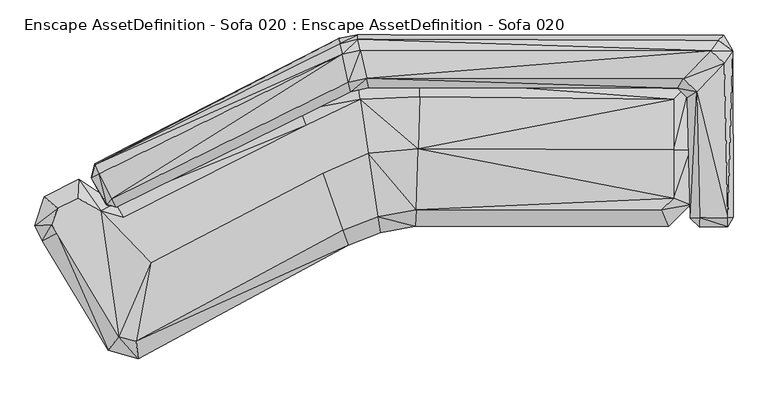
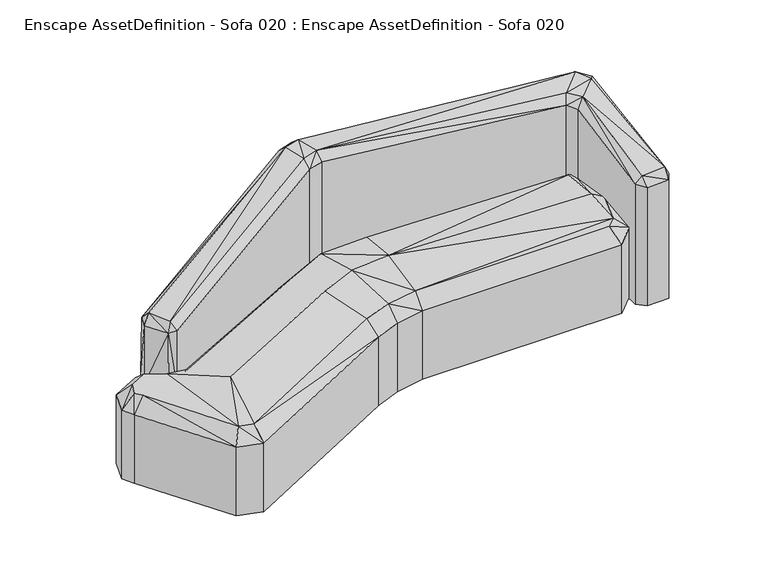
"""IFC4 building model written with IfcOpenShell, lengths in millimetres: geographic element geometry, Enscape AssetDefinition - Sofa 020 : Enscape AssetDefinition - Sofa 020."""

from ifc_helpers import new_model, si_unit, origin, place, context, project, spatial, triangles, source, transform, mapped, element, save


def enscape_assetdefinition_sofa_020_enscape_assetdefinition_e8b1b9e5(model_context):
    return source(origin(), model_context, "Body", "Tessellation", [
        triangles([(1344.632896, -23.3064444, 655.2366039), (1225.1138832, 460.2764837, 763.0779139), (1363.0729042, 618.2515795, 726.1329306), (1330.848127, 570.6717439, 756.4520102), (1236.0392338, -24.4526817, 648.4544598), (1279.4707397, 618.4629038, 776.5762905), (1328.6947701, 676.4740431, 368.1097984), (1307.8392117, 658.5411261, 736.2185795), (1345.1037975, -58.3137099, 608.2229765), (1364.8975021, -21.0019521, 614.0613556), (1363.8543972, -21.0019521, 307.0306778), (1363.0729042, 618.2515795, 363.0669376), (-76.7466509, 678.5811819, 431.3450738), (-145.9676346, 645.3103203, 856.4379856), (-76.7466509, 661.352655, 862.6891302), (-1084.6619911, 179.3186512, 607.9423977), (-148.4935433, 665.7050783, 428.2189928), (-1086.3773661, 184.2522709, 303.9706902), (-145.9676346, 640.8436598, 0.0), (-1101.3034899, 130.4824243, 0.0), (-1101.3034899, 130.4824243, 300.1452696), (-1004.8635189, 17.0181825, 0.0), (-1084.6619911, 179.317652, 0.0), (-1043.7291698, 23.4597463, 300.1452696), (-1041.9025372, 28.9614726, 600.2905392), (-1101.3034899, 130.4824243, 600.2905392), (-1069.7127583, 146.0427754, 646.3292988), (-1004.8635189, 17.0181825, 608.2019749), (-1043.7291698, 23.4597463, 0.0), (-1004.8635189, 17.0181825, 304.1009874), (-1021.6630749, 49.3832911, 644.3834873), (-112.5935453, 496.3548411, 894.7717649), (-137.1744759, 604.5347932, 892.8299503), (-34.8188958, 475.9660784, 862.0639503), (-34.8188958, 475.9660784, 431.0324839), (-104.0398705, 459.9238163, 856.0181711), (-104.0398705, 459.9238163, 428.0085769), (1151.9501078, 474.1866448, 736.7335917), (1189.2719576, 437.6593686, 723.606922), (1189.2719576, 437.6583876, 361.803461), (-34.8188958, 475.9660784, 0.0), (1151.9501078, 474.1856275, 368.3662871), (1199.9287926, -25.1650701, 615.7456278), (1199.9287926, -25.1650701, 307.8723415), (1237.2406139, -60.7975517, 304.1109796), (1237.2406139, -60.7975517, 608.2229765), (1345.1037975, -58.3137099, 304.1109796), (1199.9287926, -25.1650701, 0.0), (1189.2719576, 437.6583876, 0.0), (1363.0729042, 618.2515795, 0.0), (1345.1037975, -58.3137099, 0.0), (1363.8543972, -21.0019521, 0.0), (1237.2406139, -60.7975517, 0.0), (1151.9501078, 474.1856275, 0.0), (1328.6947701, 654.7787104, 0.0), (-76.7466509, 656.8858492, 0.0), (-104.0398705, 459.9238163, 0.0), (1173.2376892, 510.6146175, 772.3630302), (-67.7460965, 620.4728828, 896.8637884), (-42.2974773, 512.4081491, 901.1030645), (-76.4761278, 493.8750143, 0.0), (144.725205, -55.7236563, 352.6726956), (144.725205, -55.7236563, 0.0), (8.5977651, -81.8505999, 0.0), (1117.5070066, -55.7236563, 0.0), (8.5977651, -81.8505999, 352.6726956), (1199.857576, 26.6279214, 0.0), (1199.857576, 25.9816627, 363.8144211), (146.8293099, 6.6299278, 418.2214562), (1091.4342522, 6.6549762, 418.2966333), (1117.5070066, -55.7236563, 352.6726956), (-0.5280296, -20.0921784, 417.9118821), (-133.9812387, -71.4653508, 418.3397266), (-211.7779345, 146.5948493, 455.5051907), (-976.8848488, -21.1201839, 424.9195576), (154.780814, 242.2583778, 455.5051907), (-36.6925482, 224.6470254, 455.5051907), (-277.6223348, 331.1507535, 425.229168), (-1008.6539125, 32.4162059, 352.6726956), (-298.5261097, 389.7399462, 352.6726956), (-76.4761278, 493.8750143, 352.6726956), (161.5149415, 441.8135118, 425.0949102), (163.6130329, 504.0047739, 0.0), (-113.0223799, -130.210902, 0.0), (-920.3074883, -565.7200839, 0.0), (-872.4301781, -197.1464148, 0.0), (-113.0223799, -130.210902, 352.6726956), (-927.5376429, -498.6763564, 416.0011703), (-298.5261097, 389.7399462, 0.0), (-1035.4992216, -533.5814206, 0.0), (-920.3074883, -565.7200839, 352.6726956), (-872.4301781, -197.1464148, 455.5051907), (-1064.6199005, 3.6100392, 415.6174001), (-994.6003372, -479.9608927, 414.2477162), (-1035.4992216, -533.5814206, 352.6726956), (-1288.6937233, -111.7228499, 352.6726956), (-1232.727808, -82.9156784, 415.6174001), (-1253.3718967, -49.9674306, 415.6174001), (-1280.360511, 56.6214076, 352.6726956), (-1153.0674814, 50.7730001, 415.6174001), (-1228.7359005, 12.2659165, 415.6174001), (-1317.1222206, -54.4832387, 352.6726956), (-1317.1222206, -54.4832387, 0.0), (-1149.3351511, 123.2984242, 352.6726956), (-1008.6539125, 32.4162059, 0.0), (-1280.360511, 56.6214076, 0.0), (-1149.3351511, 123.2984242, 0.0), (-1288.6937233, -111.7228499, 0.0), (1199.857576, 492.9582098, 0.0), (1199.857576, 492.9582098, 352.6726956), (163.6130329, 504.0047739, 352.6726956), (1199.857576, 236.3779228, 392.5604862), (1136.9129442, 51.7108335, 416.5021571), (1136.9138889, 236.7316076, 431.4412525), (1136.9129442, 431.4101861, 411.4412742), (-67.3713692, 432.2648578, 424.7451859)], [[76, 82, 116], [115, 82, 76], [114, 115, 76], [113, 114, 76], [69, 70, 113], [69, 113, 76], [68, 113, 70], [113, 68, 112], [113, 112, 114], [114, 112, 110], [114, 110, 115], [115, 110, 111], [115, 111, 82], [109, 112, 68], [109, 110, 112], [109, 111, 110], [67, 109, 68], [109, 83, 111], [83, 109, 67], [105, 108, 106], [108, 103, 106], [105, 106, 107], [104, 107, 106], [104, 106, 99], [106, 103, 102], [106, 102, 99], [108, 102, 103], [102, 101, 99], [102, 98, 101], [99, 101, 100], [100, 101, 98], [99, 100, 104], [93, 104, 100], [97, 93, 100], [97, 100, 98], [96, 97, 98], [108, 96, 102], [96, 98, 102], [97, 96, 95], [93, 97, 94], [92, 93, 94], [97, 95, 94], [92, 94, 88], [91, 88, 94], [91, 94, 95], [91, 95, 90], [90, 95, 96], [90, 96, 108], [105, 90, 108], [105, 86, 90], [89, 86, 105], [91, 90, 85], [86, 85, 90], [87, 91, 85], [87, 88, 91], [84, 87, 85], [84, 85, 86], [89, 84, 86], [64, 87, 84], [64, 84, 89], [111, 83, 61], [61, 64, 89], [82, 111, 81], [81, 61, 89], [82, 81, 116], [111, 61, 81], [116, 81, 80], [80, 89, 105], [81, 89, 80], [93, 79, 104], [79, 105, 107], [79, 107, 104], [80, 105, 79], [92, 75, 93], [79, 93, 75], [78, 80, 79], [78, 79, 75], [116, 80, 78], [77, 116, 78], [69, 76, 77], [76, 116, 77], [74, 78, 75], [74, 75, 92], [77, 78, 74], [87, 73, 88], [73, 92, 88], [73, 74, 92], [72, 77, 74], [72, 74, 73], [69, 77, 72], [66, 72, 73], [64, 66, 87], [66, 73, 87], [62, 69, 72], [62, 72, 66], [69, 62, 71], [68, 70, 71], [69, 71, 70], [65, 67, 68], [65, 68, 71], [83, 67, 65], [63, 62, 66], [63, 65, 71], [63, 66, 64], [63, 71, 62], [63, 64, 61], [83, 63, 61], [63, 83, 65], [59, 33, 32], [59, 32, 60], [6, 59, 60], [60, 58, 6], [56, 41, 57], [54, 41, 56], [54, 56, 55], [50, 54, 55], [9, 47, 11], [53, 51, 47], [52, 51, 53], [47, 51, 52], [47, 52, 11], [52, 50, 11], [50, 49, 54], [50, 52, 49], [52, 48, 49], [52, 53, 48], [48, 53, 45], [45, 47, 9], [45, 53, 47], [5, 46, 9], [46, 45, 9], [49, 48, 44], [45, 46, 44], [48, 45, 44], [54, 49, 40], [40, 49, 44], [46, 43, 44], [5, 43, 46], [43, 40, 44], [2, 43, 5], [2, 39, 43], [43, 39, 40], [41, 54, 42], [42, 54, 40], [39, 42, 40], [39, 38, 42], [2, 58, 38], [60, 38, 58], [2, 38, 39], [60, 34, 38], [38, 34, 35], [35, 41, 42], [38, 35, 42], [37, 57, 41], [37, 41, 35], [36, 37, 35], [60, 32, 36], [34, 36, 35], [60, 36, 34], [31, 32, 33], [31, 36, 32], [33, 27, 31], [31, 28, 36], [36, 28, 37], [28, 30, 37], [30, 57, 37], [30, 22, 57], [22, 29, 20], [24, 29, 22], [24, 22, 30], [29, 24, 20], [25, 24, 30], [28, 25, 30], [27, 25, 31], [31, 25, 28], [27, 26, 25], [25, 26, 21], [24, 21, 20], [24, 25, 21], [57, 22, 23], [22, 20, 23], [23, 20, 21], [57, 23, 19], [56, 57, 19], [19, 23, 18], [21, 26, 18], [23, 21, 18], [26, 16, 18], [33, 16, 27], [16, 26, 27], [56, 19, 17], [18, 16, 17], [19, 18, 17], [16, 14, 17], [33, 14, 16], [15, 14, 33], [6, 15, 59], [15, 33, 59], [14, 15, 13], [17, 14, 13], [56, 17, 13], [13, 15, 8], [6, 8, 15], [56, 13, 7], [13, 8, 7], [55, 56, 7], [55, 7, 12], [50, 12, 11], [50, 55, 12], [12, 10, 11], [10, 9, 11], [7, 8, 3], [12, 3, 10], [3, 8, 6], [7, 3, 12], [4, 6, 58], [4, 58, 2], [3, 6, 4], [1, 10, 3], [2, 5, 1], [5, 9, 1], [1, 3, 4], [9, 10, 1], [1, 4, 2]]),
    ])


if __name__ == "__main__":
    model = new_model("IFC4")
    model_context = context("Model", 3, world=origin())
    ifc_project = project(units=[si_unit("LENGTHUNIT", "METRE", prefix="MILLI")], contexts=[model_context])
    site = spatial("IfcSite", under=ifc_project)
    building = spatial("IfcBuilding", under=site)
    placement = place(None, origin())
    enscape_assetdefinition_sofa_020_enscape_assetdefinition_shape = enscape_assetdefinition_sofa_020_enscape_assetdefinition_e8b1b9e5(model_context)
    element("IfcGeographicElement", 1, ObjectType="Enscape AssetDefinition - Sofa 020 : Enscape AssetDefinition - Sofa 020", at=placement, inside=building, context=model_context, shape_type="MappedRepresentation", body=[
        mapped(enscape_assetdefinition_sofa_020_enscape_assetdefinition_shape, transform((0.0, 0.0, 0.0), x_axis=(1.0, 0.0, 0.0), y_axis=(0.0, 1.0, 0.0), z_axis=(0.0, 0.0, 1.0))),
    ])
    save(model, "model.ifc")
